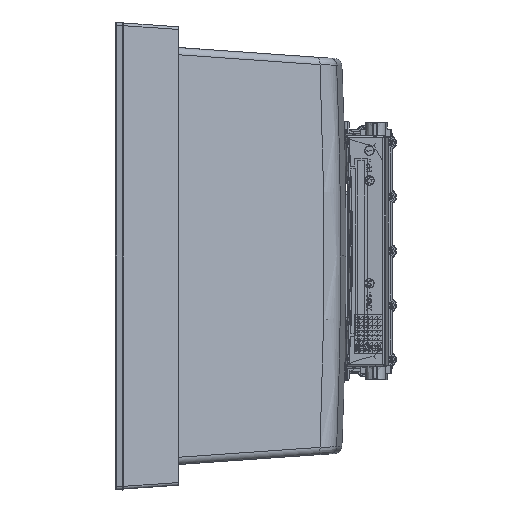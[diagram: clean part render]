
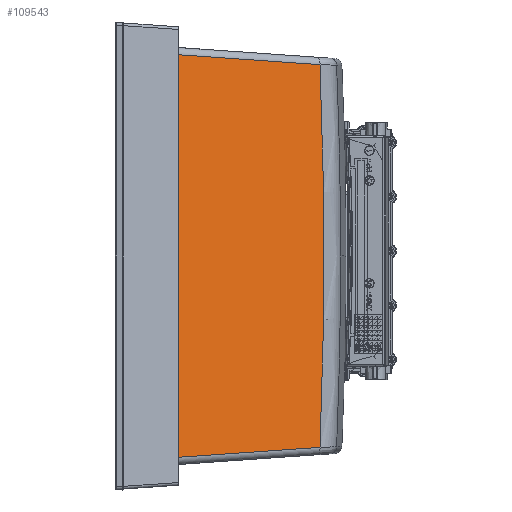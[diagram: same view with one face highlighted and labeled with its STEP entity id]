
A CAD part, left-side view. The second image highlights one B-rep face of the part: STEP entity #109543.
In plain terms, the highlighted planar face has unit normal (-0.906, -0.423, 0).
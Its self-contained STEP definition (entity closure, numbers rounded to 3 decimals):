
#650 = CARTESIAN_POINT ( 'NONE',  ( 25.892, -12.619, -35. ) ) ;
#1659 = AXIS2_PLACEMENT_3D ( 'NONE', #134944, #117046, #121010 ) ;
#3749 = EDGE_LOOP ( 'NONE', ( #15873, #184961, #112562, #27605 ) ) ;
#4253 = AXIS2_PLACEMENT_3D ( 'NONE', #34533, #33555, #108403 ) ;
#5052 = VERTEX_POINT ( 'NONE', #39164 ) ;
#6361 = CARTESIAN_POINT ( 'NONE',  ( 123.136, -221.16, -459.457 ) ) ;
#7694 = CARTESIAN_POINT ( 'NONE',  ( 25.892, -12.619, -30.961 ) ) ;
#15873 = ORIENTED_EDGE ( 'NONE', *, *, #54854, .T. ) ;
#27605 = ORIENTED_EDGE ( 'NONE', *, *, #89015, .T. ) ;
#33555 = DIRECTION ( 'NONE',  ( 0.906, 0.423, 0. ) ) ;
#34280 = VERTEX_POINT ( 'NONE', #142413 ) ;
#34533 = CARTESIAN_POINT ( 'NONE',  ( 21.585, -3.381, -35. ) ) ;
#34566 = EDGE_CURVE ( 'NONE', #149964, #5052, #104410, .T. ) ;
#35969 = VECTOR ( 'NONE', #167194, 1000. ) ;
#39164 = CARTESIAN_POINT ( 'NONE',  ( 25.892, -12.619, -474.039 ) ) ;
#49379 = DIRECTION ( 'NONE',  ( 0.422, -0.904, 0.063 ) ) ;
#49679 = VECTOR ( 'NONE', #49379, 1000. ) ;
#50565 = CARTESIAN_POINT ( 'NONE',  ( 23.531, -7.555, -30.607 ) ) ;
#54063 = VERTEX_POINT ( 'NONE', #6361 ) ;
#54854 = EDGE_CURVE ( 'NONE', #54063, #34280, #78107, .T. ) ;
#71859 = VECTOR ( 'NONE', #140338, 1000. ) ;
#78107 = CIRCLE ( 'NONE', #1659, 4405.83 ) ;
#89015 = EDGE_CURVE ( 'NONE', #5052, #54063, #152212, .T. ) ;
#104410 = LINE ( 'NONE', #650, #35969 ) ;
#108403 = DIRECTION ( 'NONE',  ( -0.423, 0.906, 0. ) ) ;
#109382 = FACE_OUTER_BOUND ( 'NONE', #3749, .T. ) ;
#109543 = ADVANCED_FACE ( 'NONE', ( #109382 ), #186115, .F. ) ;
#112562 = ORIENTED_EDGE ( 'NONE', *, *, #34566, .T. ) ;
#115701 = EDGE_CURVE ( 'NONE', #34280, #149964, #157306, .T. ) ;
#117046 = DIRECTION ( 'NONE',  ( -0.906, -0.423, 0. ) ) ;
#121010 = DIRECTION ( 'NONE',  ( -0.423, 0.906, 0. ) ) ;
#134944 = CARTESIAN_POINT ( 'NONE',  ( -1736.792, 3767.47, -252.5 ) ) ;
#137208 = CARTESIAN_POINT ( 'NONE',  ( 33.314, -28.534, -472.926 ) ) ;
#140338 = DIRECTION ( 'NONE',  ( -0.422, 0.904, 0.063 ) ) ;
#142413 = CARTESIAN_POINT ( 'NONE',  ( 123.136, -221.16, -45.543 ) ) ;
#149964 = VERTEX_POINT ( 'NONE', #7694 ) ;
#152212 = LINE ( 'NONE', #137208, #49679 ) ;
#157306 = LINE ( 'NONE', #50565, #71859 ) ;
#167194 = DIRECTION ( 'NONE',  ( 0., 0., -1. ) ) ;
#184961 = ORIENTED_EDGE ( 'NONE', *, *, #115701, .T. ) ;
#186115 = PLANE ( 'NONE',  #4253 ) ;
